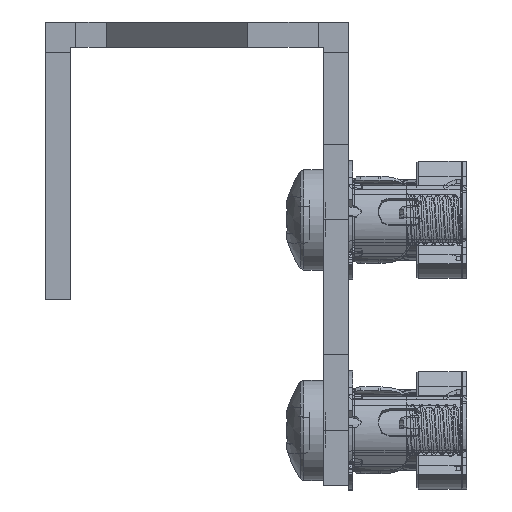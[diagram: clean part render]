
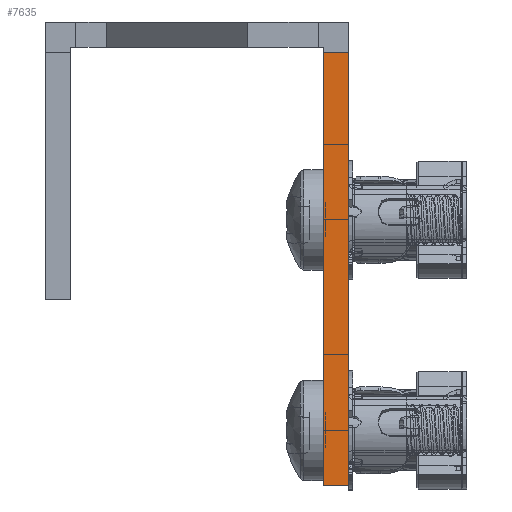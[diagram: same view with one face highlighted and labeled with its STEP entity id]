
A CAD part, left-side view. The second image highlights one B-rep face of the part: STEP entity #7635.
In plain terms, the highlighted planar face has unit normal (-1, 0, 0) as drawn and (1, 0, 0) by its records, which use the part's own axes.
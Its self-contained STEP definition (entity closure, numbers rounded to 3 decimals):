
#7608 = VERTEX_POINT('',#7609);
#7609 = CARTESIAN_POINT('',(670.,12.9,-33.));
#7615 = EDGE_CURVE('',#7608,#7616,#7618,.T.);
#7616 = VERTEX_POINT('',#7617);
#7617 = CARTESIAN_POINT('',(670.,12.9,-36.));
#7618 = LINE('',#7619,#7620);
#7619 = CARTESIAN_POINT('',(670.,12.9,-33.));
#7620 = VECTOR('',#7621,1.);
#7621 = DIRECTION('',(0.,0.,-1.));
#7635 = ADVANCED_FACE('',(#7636),#7661,.T.);
#7636 = FACE_BOUND('',#7637,.T.);
#7637 = EDGE_LOOP('',(#7638,#7646,#7647,#7655));
#7638 = ORIENTED_EDGE('',*,*,#7639,.T.);
#7639 = EDGE_CURVE('',#7640,#7616,#7642,.T.);
#7640 = VERTEX_POINT('',#7641);
#7641 = CARTESIAN_POINT('',(670.,-38.5,-36.));
#7642 = LINE('',#7643,#7644);
#7643 = CARTESIAN_POINT('',(670.,13.5,-36.));
#7644 = VECTOR('',#7645,1.);
#7645 = DIRECTION('',(-0.,1.,0.));
#7646 = ORIENTED_EDGE('',*,*,#7615,.F.);
#7647 = ORIENTED_EDGE('',*,*,#7648,.F.);
#7648 = EDGE_CURVE('',#7649,#7608,#7651,.T.);
#7649 = VERTEX_POINT('',#7650);
#7650 = CARTESIAN_POINT('',(670.,-38.5,-33.));
#7651 = LINE('',#7652,#7653);
#7652 = CARTESIAN_POINT('',(670.,0.,-33.));
#7653 = VECTOR('',#7654,1.);
#7654 = DIRECTION('',(-0.,1.,0.));
#7655 = ORIENTED_EDGE('',*,*,#7656,.F.);
#7656 = EDGE_CURVE('',#7640,#7649,#7657,.T.);
#7657 = LINE('',#7658,#7659);
#7658 = CARTESIAN_POINT('',(670.,-38.5,-36.));
#7659 = VECTOR('',#7660,1.);
#7660 = DIRECTION('',(0.,0.,1.));
#7661 = PLANE('',#7662);
#7662 = AXIS2_PLACEMENT_3D('',#7663,#7664,#7665);
#7663 = CARTESIAN_POINT('',(670.,13.5,-36.));
#7664 = DIRECTION('',(1.,0.,0.));
#7665 = DIRECTION('',(0.,0.,-1.));
